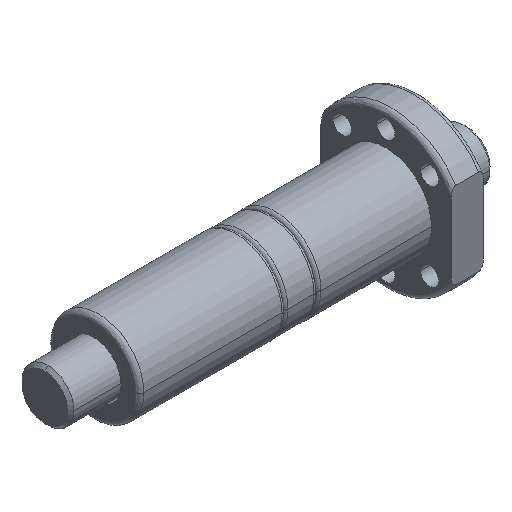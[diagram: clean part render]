
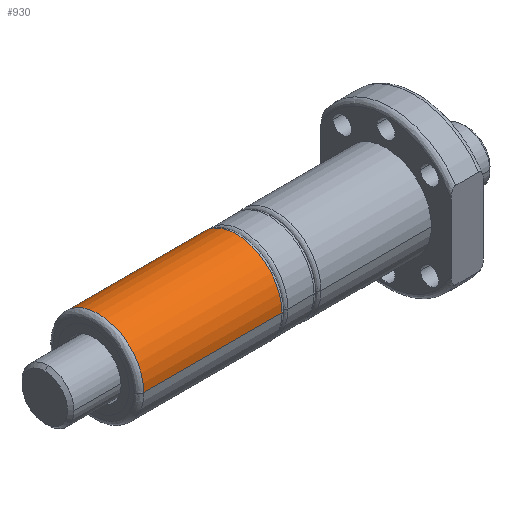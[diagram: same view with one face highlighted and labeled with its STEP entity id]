
A CAD part, isometric view. The second image highlights one B-rep face of the part: STEP entity #930.
In plain terms, the highlighted cylindrical face has radius 14 mm (diameter 28 mm), a partial arc.
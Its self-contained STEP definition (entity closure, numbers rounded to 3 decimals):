
#82 = DIRECTION ( 'NONE',  ( 0., -1., 0. ) ) ;
#83 = DIRECTION ( 'NONE',  ( -1., 0., 0. ) ) ;
#84 = AXIS2_PLACEMENT_3D ( 'NONE', #85, #83, #82 ) ;
#85 = CARTESIAN_POINT ( 'NONE',  ( -71., 0., 0. ) ) ;
#86 = CIRCLE ( 'NONE', #84, 14. ) ;
#749 = CARTESIAN_POINT ( 'NONE',  ( -113.5, 14., 0. ) ) ;
#897 = VERTEX_POINT ( 'NONE', #749 ) ;
#902 = VERTEX_POINT ( 'NONE', #1260 ) ;
#913 = ORIENTED_EDGE ( 'NONE', *, *, #922, .T. ) ;
#914 = EDGE_LOOP ( 'NONE', ( #1068, #913, #970, #927 ) ) ;
#922 = EDGE_CURVE ( 'NONE', #1017, #897, #1553, .T. ) ;
#923 = EDGE_CURVE ( 'NONE', #897, #1020, #1611, .T. ) ;
#927 = ORIENTED_EDGE ( 'NONE', *, *, #1145, .F. ) ;
#930 = ADVANCED_FACE ( 'NONE', ( #1335 ), #1256, .T. ) ;
#970 = ORIENTED_EDGE ( 'NONE', *, *, #923, .T. ) ;
#1017 = VERTEX_POINT ( 'NONE', #2367 ) ;
#1020 = VERTEX_POINT ( 'NONE', #2362 ) ;
#1068 = ORIENTED_EDGE ( 'NONE', *, *, #1070, .T. ) ;
#1070 = EDGE_CURVE ( 'NONE', #902, #1017, #86, .T. ) ;
#1145 = EDGE_CURVE ( 'NONE', #902, #1020, #2581, .T. ) ;
#1255 = AXIS2_PLACEMENT_3D ( 'NONE', #1531, #1509, #1540 ) ;
#1256 = CYLINDRICAL_SURFACE ( 'NONE', #1255, 14. ) ;
#1260 = CARTESIAN_POINT ( 'NONE',  ( -71., -14., 0. ) ) ;
#1335 = FACE_OUTER_BOUND ( 'NONE', #914, .T. ) ;
#1459 = DIRECTION ( 'NONE',  ( 1., 0., 0. ) ) ;
#1483 = DIRECTION ( 'NONE',  ( 0., -1., 0. ) ) ;
#1509 = DIRECTION ( 'NONE',  ( -1., 0., 0. ) ) ;
#1523 = DIRECTION ( 'NONE',  ( -1., 0., 0. ) ) ;
#1524 = CARTESIAN_POINT ( 'NONE',  ( 0., 14., 0. ) ) ;
#1531 = CARTESIAN_POINT ( 'NONE',  ( 0., 0., 0. ) ) ;
#1540 = DIRECTION ( 'NONE',  ( 0., -1., 0. ) ) ;
#1552 = AXIS2_PLACEMENT_3D ( 'NONE', #1661, #1459, #1483 ) ;
#1553 = LINE ( 'NONE', #1524, #1662 ) ;
#1611 = CIRCLE ( 'NONE', #1552, 14. ) ;
#1661 = CARTESIAN_POINT ( 'NONE',  ( -113.5, 0., 0. ) ) ;
#1662 = VECTOR ( 'NONE', #1523, 1000. ) ;
#2362 = CARTESIAN_POINT ( 'NONE',  ( -113.5, -14., 0. ) ) ;
#2367 = CARTESIAN_POINT ( 'NONE',  ( -71., 14., 0. ) ) ;
#2578 = DIRECTION ( 'NONE',  ( -1., 0., 0. ) ) ;
#2579 = VECTOR ( 'NONE', #2578, 1000. ) ;
#2580 = CARTESIAN_POINT ( 'NONE',  ( 0., -14., 0. ) ) ;
#2581 = LINE ( 'NONE', #2580, #2579 ) ;
